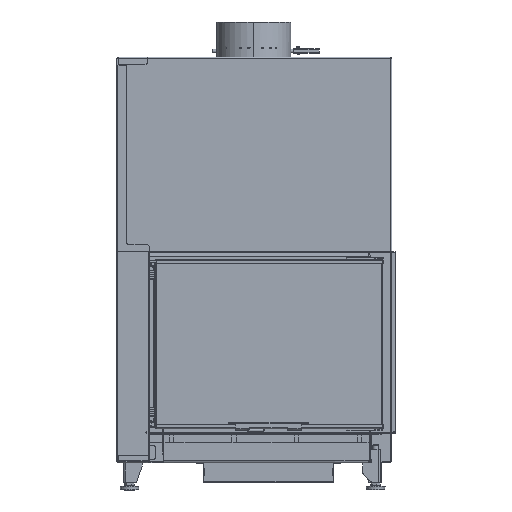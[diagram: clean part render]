
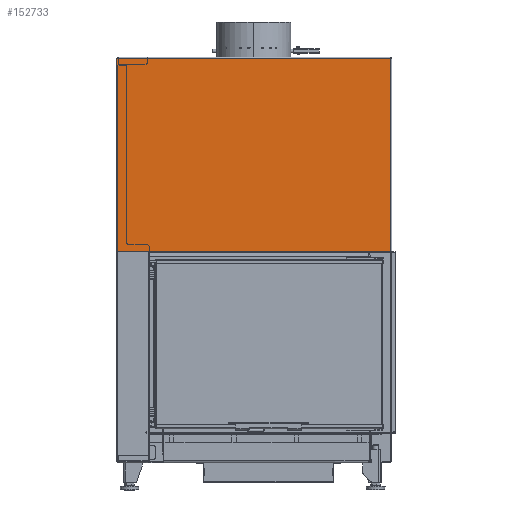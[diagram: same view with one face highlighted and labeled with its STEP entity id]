
A CAD part, front view. The second image highlights one B-rep face of the part: STEP entity #152733.
In plain terms, the highlighted planar face has unit normal (0, -1, 0).
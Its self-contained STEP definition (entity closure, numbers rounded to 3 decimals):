
#6855=PLANE('',#166483);
#14392=FACE_OUTER_BOUND('',#22855,.T.);
#22855=EDGE_LOOP('',(#130101,#130102,#130103,#130104,#130105,#130106,#130107,
#130108,#130109,#130110,#130111));
#28933=CIRCLE('',#166484,3.);
#28934=CIRCLE('',#166485,0.1);
#28935=CIRCLE('',#166486,3.);
#37495=LINE('',#236280,#51451);
#42373=LINE('',#255434,#56329);
#42374=LINE('',#255436,#56330);
#42375=LINE('',#255439,#56331);
#42376=LINE('',#255441,#56332);
#42377=LINE('',#255443,#56333);
#42378=LINE('',#255445,#56334);
#42379=LINE('',#255448,#56335);
#51451=VECTOR('',#190975,10.);
#56329=VECTOR('',#205835,10.);
#56330=VECTOR('',#205836,10.);
#56331=VECTOR('',#205839,10.);
#56332=VECTOR('',#205840,10.);
#56333=VECTOR('',#205841,10.);
#56334=VECTOR('',#205842,10.);
#56335=VECTOR('',#205845,10.);
#64706=VERTEX_POINT('',#236277);
#64707=VERTEX_POINT('',#236279);
#69452=VERTEX_POINT('',#255430);
#69453=VERTEX_POINT('',#255431);
#69454=VERTEX_POINT('',#255433);
#69455=VERTEX_POINT('',#255435);
#69456=VERTEX_POINT('',#255438);
#69457=VERTEX_POINT('',#255440);
#69458=VERTEX_POINT('',#255442);
#69459=VERTEX_POINT('',#255444);
#69460=VERTEX_POINT('',#255446);
#82335=EDGE_CURVE('',#64707,#64706,#37495,.T.);
#89931=EDGE_CURVE('',#69452,#69453,#28933,.T.);
#89932=EDGE_CURVE('',#69452,#69454,#42373,.T.);
#89933=EDGE_CURVE('',#69454,#69455,#42374,.T.);
#89934=EDGE_CURVE('',#69455,#64707,#28934,.T.);
#89935=EDGE_CURVE('',#64706,#69456,#42375,.T.);
#89936=EDGE_CURVE('',#69456,#69457,#42376,.T.);
#89937=EDGE_CURVE('',#69457,#69458,#42377,.T.);
#89938=EDGE_CURVE('',#69458,#69459,#42378,.T.);
#89939=EDGE_CURVE('',#69460,#69459,#28935,.T.);
#89940=EDGE_CURVE('',#69460,#69453,#42379,.T.);
#130101=ORIENTED_EDGE('',*,*,#89931,.F.);
#130102=ORIENTED_EDGE('',*,*,#89932,.T.);
#130103=ORIENTED_EDGE('',*,*,#89933,.T.);
#130104=ORIENTED_EDGE('',*,*,#89934,.T.);
#130105=ORIENTED_EDGE('',*,*,#82335,.T.);
#130106=ORIENTED_EDGE('',*,*,#89935,.T.);
#130107=ORIENTED_EDGE('',*,*,#89936,.T.);
#130108=ORIENTED_EDGE('',*,*,#89937,.T.);
#130109=ORIENTED_EDGE('',*,*,#89938,.T.);
#130110=ORIENTED_EDGE('',*,*,#89939,.F.);
#130111=ORIENTED_EDGE('',*,*,#89940,.T.);
#152733=ADVANCED_FACE('',(#14392),#6855,.T.);
#166483=AXIS2_PLACEMENT_3D('',#255429,#205831,#205832);
#166484=AXIS2_PLACEMENT_3D('',#255432,#205833,#205834);
#166485=AXIS2_PLACEMENT_3D('',#255437,#205837,#205838);
#166486=AXIS2_PLACEMENT_3D('',#255447,#205843,#205844);
#190975=DIRECTION('',(0.,0.,-1.));
#205831=DIRECTION('center_axis',(0.,-1.,
0.));
#205832=DIRECTION('ref_axis',(1.,0.,0.));
#205833=DIRECTION('center_axis',(0.,1.,
0.));
#205834=DIRECTION('ref_axis',(-0.707,0.,-0.707));
#205835=DIRECTION('',(1.,0.,0.));
#205836=DIRECTION('',(0.,0.,1.));
#205837=DIRECTION('center_axis',(0.,1.,
0.));
#205838=DIRECTION('ref_axis',(1.,0.,0.));
#205839=DIRECTION('',(1.,0.,0.));
#205840=DIRECTION('',(0.,0.,1.));
#205841=DIRECTION('',(-1.,0.,0.));
#205842=DIRECTION('',(-1.,0.,0.));
#205843=DIRECTION('center_axis',(0.,1.,
0.));
#205844=DIRECTION('ref_axis',(-0.707,0.,0.707));
#205845=DIRECTION('',(0.,0.,-1.));
#236277=CARTESIAN_POINT('',(87.4,-59.998,582.265));
#236279=CARTESIAN_POINT('',(87.4,-59.998,582.365));
#236280=CARTESIAN_POINT('',(87.4,-59.994,715.952));
#255429=CARTESIAN_POINT('Origin',(420.775,-59.99,849.64));
#255430=CARTESIAN_POINT('',(3.,-59.998,582.265));
#255431=CARTESIAN_POINT('',(0.,-59.998,585.265));
#255432=CARTESIAN_POINT('Origin',(3.,-59.998,585.265));
#255433=CARTESIAN_POINT('',(87.2,-59.998,582.265));
#255434=CARTESIAN_POINT('',(0.,-59.998,582.265));
#255435=CARTESIAN_POINT('',(87.2,-59.998,582.365));
#255436=CARTESIAN_POINT('',(87.2,-59.994,716.002));
#255437=CARTESIAN_POINT('Origin',(87.3,-59.998,582.365));
#255438=CARTESIAN_POINT('',(754.65,-59.998,582.265));
#255439=CARTESIAN_POINT('',(0.,-59.998,582.265));
#255440=CARTESIAN_POINT('',(754.65,-59.982,1114.265));
#255441=CARTESIAN_POINT('',(754.65,-59.994,715.952));
#255442=CARTESIAN_POINT('',(84.15,-59.982,1114.265));
#255443=CARTESIAN_POINT('',(589.088,-59.982,1114.265));
#255444=CARTESIAN_POINT('',(3.,-59.982,1114.265));
#255445=CARTESIAN_POINT('',(84.15,-59.982,1114.265));
#255446=CARTESIAN_POINT('',(0.,-59.982,1111.265));
#255447=CARTESIAN_POINT('Origin',(3.,-59.982,1111.265));
#255448=CARTESIAN_POINT('',(0.,-59.982,1114.265));
